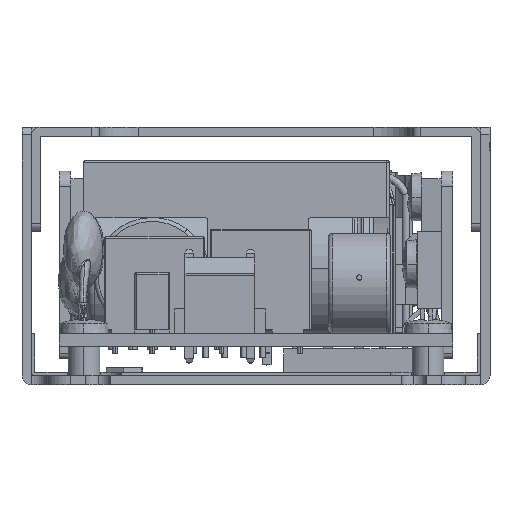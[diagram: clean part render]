
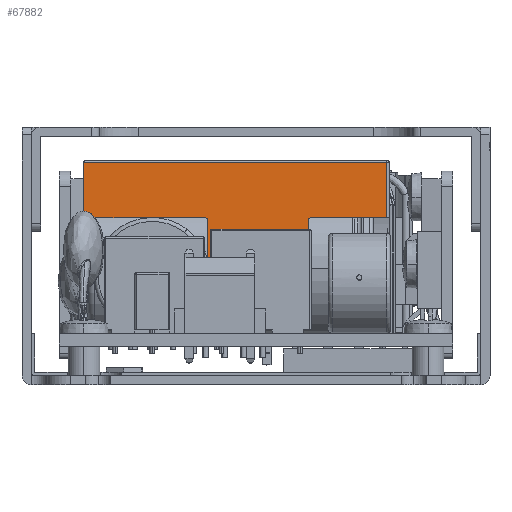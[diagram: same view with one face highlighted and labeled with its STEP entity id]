
A CAD part, left-side view. The second image highlights one B-rep face of the part: STEP entity #67882.
In plain terms, the highlighted planar face has unit normal (-1, 0, 0).
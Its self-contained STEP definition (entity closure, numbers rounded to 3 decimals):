
#79 = VECTOR ( 'NONE', #95932, 1000. ) ;
#2710 = LINE ( 'NONE', #29431, #79 ) ;
#3617 = DIRECTION ( 'NONE',  ( 0., -1., 0. ) ) ;
#5769 = EDGE_CURVE ( 'NONE', #94928, #77564, #69209, .T. ) ;
#5865 = CARTESIAN_POINT ( 'NONE',  ( 126.168, -18.539, 24. ) ) ;
#7646 = AXIS2_PLACEMENT_3D ( 'NONE', #89366, #39298, #97727 ) ;
#9795 = DIRECTION ( 'NONE',  ( 0., 0., -1. ) ) ;
#11513 = ORIENTED_EDGE ( 'NONE', *, *, #39208, .T. ) ;
#11703 = CARTESIAN_POINT ( 'NONE',  ( 126.168, 20.211, 16.55 ) ) ;
#11969 = DIRECTION ( 'NONE',  ( -1., 0., 0. ) ) ;
#12742 = CARTESIAN_POINT ( 'NONE',  ( 126.168, -8.389, 16.55 ) ) ;
#12859 = DIRECTION ( 'NONE',  ( 1., 0., 0. ) ) ;
#14931 = FACE_OUTER_BOUND ( 'NONE', #33617, .T. ) ;
#15255 = VERTEX_POINT ( 'NONE', #79689 ) ;
#16035 = VERTEX_POINT ( 'NONE', #102096 ) ;
#18652 = ORIENTED_EDGE ( 'NONE', *, *, #84026, .T. ) ;
#18893 = CIRCLE ( 'NONE', #78969, 0.3 ) ;
#23476 = EDGE_CURVE ( 'NONE', #38725, #44497, #51337, .T. ) ;
#24487 = CARTESIAN_POINT ( 'NONE',  ( 126.168, -18.539, 16.55 ) ) ;
#24772 = VECTOR ( 'NONE', #99461, 1000. ) ;
#25190 = DIRECTION ( 'NONE',  ( 0., -1., 0. ) ) ;
#26458 = VECTOR ( 'NONE', #55917, 1000. ) ;
#26508 = VECTOR ( 'NONE', #33922, 1000. ) ;
#27938 = VERTEX_POINT ( 'NONE', #89076 ) ;
#28317 = VERTEX_POINT ( 'NONE', #52095 ) ;
#28596 = EDGE_CURVE ( 'NONE', #77564, #31258, #18893, .T. ) ;
#29431 = CARTESIAN_POINT ( 'NONE',  ( 126.168, 20.661, 24. ) ) ;
#29504 = CARTESIAN_POINT ( 'NONE',  ( 126.168, 20.211, 3.25 ) ) ;
#31258 = VERTEX_POINT ( 'NONE', #34369 ) ;
#31694 = VECTOR ( 'NONE', #105853, 1000. ) ;
#32009 = CARTESIAN_POINT ( 'NONE',  ( 126.168, 4.611, 3.25 ) ) ;
#32324 = DIRECTION ( 'NONE',  ( -1., 0., 0. ) ) ;
#33617 = EDGE_LOOP ( 'NONE', ( #56047, #73502, #18652, #72513, #104356, #11513, #40410, #46809, #102650, #79848, #80716, #51580, #84294, #95182 ) ) ;
#33922 = DIRECTION ( 'NONE',  ( 0., 1., 0. ) ) ;
#34369 = CARTESIAN_POINT ( 'NONE',  ( 126.168, 4.611, 16.25 ) ) ;
#38400 = CARTESIAN_POINT ( 'NONE',  ( 126.168, -8.689, 16.25 ) ) ;
#38646 = CARTESIAN_POINT ( 'NONE',  ( 126.168, 20.211, 2.95 ) ) ;
#38725 = VERTEX_POINT ( 'NONE', #24487 ) ;
#39084 = EDGE_CURVE ( 'NONE', #57879, #27938, #103085, .T. ) ;
#39208 = EDGE_CURVE ( 'NONE', #104028, #94928, #96507, .T. ) ;
#39298 = DIRECTION ( 'NONE',  ( -1., 0., 0. ) ) ;
#40320 = VECTOR ( 'NONE', #88732, 1000. ) ;
#40410 = ORIENTED_EDGE ( 'NONE', *, *, #5769, .T. ) ;
#40446 = EDGE_CURVE ( 'NONE', #27938, #28317, #98350, .T. ) ;
#40688 = CARTESIAN_POINT ( 'NONE',  ( 126.168, 20.211, 16.55 ) ) ;
#40920 = EDGE_CURVE ( 'NONE', #90101, #95408, #2710, .T. ) ;
#42727 = AXIS2_PLACEMENT_3D ( 'NONE', #82445, #32324, #90781 ) ;
#43679 = DIRECTION ( 'NONE',  ( 0., 0., 1. ) ) ;
#44497 = VERTEX_POINT ( 'NONE', #45122 ) ;
#45122 = CARTESIAN_POINT ( 'NONE',  ( 126.168, -18.539, 23.7 ) ) ;
#46809 = ORIENTED_EDGE ( 'NONE', *, *, #28596, .T. ) ;
#46847 = DIRECTION ( 'NONE',  ( 0., -1., 0. ) ) ;
#47774 = VECTOR ( 'NONE', #43679, 1000. ) ;
#49987 = VECTOR ( 'NONE', #9795, 1000. ) ;
#51337 = LINE ( 'NONE', #5865, #26458 ) ;
#51580 = ORIENTED_EDGE ( 'NONE', *, *, #82794, .T. ) ;
#52095 = CARTESIAN_POINT ( 'NONE',  ( 126.168, -8.089, 2.95 ) ) ;
#52451 = LINE ( 'NONE', #12742, #96847 ) ;
#55917 = DIRECTION ( 'NONE',  ( 0., 0., 1. ) ) ;
#56047 = ORIENTED_EDGE ( 'NONE', *, *, #64921, .T. ) ;
#56391 = EDGE_CURVE ( 'NONE', #103853, #15255, #69931, .T. ) ;
#57428 = EDGE_CURVE ( 'NONE', #31258, #57879, #72177, .T. ) ;
#57862 = AXIS2_PLACEMENT_3D ( 'NONE', #62037, #11969, #70432 ) ;
#57879 = VERTEX_POINT ( 'NONE', #32009 ) ;
#58739 = CARTESIAN_POINT ( 'NONE',  ( 126.168, -18.839, 23.7 ) ) ;
#58764 = CARTESIAN_POINT ( 'NONE',  ( 126.168, -8.389, 3.25 ) ) ;
#60831 = CIRCLE ( 'NONE', #106497, 0.3 ) ;
#62037 = CARTESIAN_POINT ( 'NONE',  ( 126.168, 4.311, 3.25 ) ) ;
#62243 = VECTOR ( 'NONE', #25190, 1000. ) ;
#62989 = CARTESIAN_POINT ( 'NONE',  ( 126.168, 4.911, 16.25 ) ) ;
#64921 = EDGE_CURVE ( 'NONE', #16035, #38725, #52451, .T. ) ;
#67882 = ADVANCED_FACE ( 'NONE', ( #14931 ), #73631, .T. ) ;
#68480 = CARTESIAN_POINT ( 'NONE',  ( 126.168, -8.389, 2.95 ) ) ;
#69209 = LINE ( 'NONE', #40688, #24772 ) ;
#69931 = LINE ( 'NONE', #68480, #47774 ) ;
#70432 = DIRECTION ( 'NONE',  ( 0., -1., 0. ) ) ;
#70917 = LINE ( 'NONE', #58739, #26508 ) ;
#70987 = EDGE_CURVE ( 'NONE', #95408, #104028, #84540, .T. ) ;
#71361 = DIRECTION ( 'NONE',  ( 0., -1., 0. ) ) ;
#72177 = LINE ( 'NONE', #84418, #49987 ) ;
#72513 = ORIENTED_EDGE ( 'NONE', *, *, #40920, .T. ) ;
#73502 = ORIENTED_EDGE ( 'NONE', *, *, #23476, .T. ) ;
#73631 = PLANE ( 'NONE',  #42727 ) ;
#77564 = VERTEX_POINT ( 'NONE', #95104 ) ;
#78969 = AXIS2_PLACEMENT_3D ( 'NONE', #62989, #12859, #71361 ) ;
#79416 = EDGE_CURVE ( 'NONE', #15255, #16035, #60831, .T. ) ;
#79689 = CARTESIAN_POINT ( 'NONE',  ( 126.168, -8.389, 16.25 ) ) ;
#79848 = ORIENTED_EDGE ( 'NONE', *, *, #39084, .T. ) ;
#80716 = ORIENTED_EDGE ( 'NONE', *, *, #40446, .T. ) ;
#82445 = CARTESIAN_POINT ( 'NONE',  ( 126.168, -18.839, 13.55 ) ) ;
#82794 = EDGE_CURVE ( 'NONE', #28317, #103853, #84619, .T. ) ;
#84026 = EDGE_CURVE ( 'NONE', #44497, #90101, #70917, .T. ) ;
#84294 = ORIENTED_EDGE ( 'NONE', *, *, #56391, .T. ) ;
#84418 = CARTESIAN_POINT ( 'NONE',  ( 126.168, 4.611, 16.55 ) ) ;
#84540 = LINE ( 'NONE', #100051, #62243 ) ;
#84619 = CIRCLE ( 'NONE', #7646, 0.3 ) ;
#88732 = DIRECTION ( 'NONE',  ( 0., 0., 1. ) ) ;
#89076 = CARTESIAN_POINT ( 'NONE',  ( 126.168, 4.311, 2.95 ) ) ;
#89366 = CARTESIAN_POINT ( 'NONE',  ( 126.168, -8.089, 3.25 ) ) ;
#90101 = VERTEX_POINT ( 'NONE', #100941 ) ;
#90781 = DIRECTION ( 'NONE',  ( 0., -1., 0. ) ) ;
#94928 = VERTEX_POINT ( 'NONE', #11703 ) ;
#95104 = CARTESIAN_POINT ( 'NONE',  ( 126.168, 4.911, 16.55 ) ) ;
#95182 = ORIENTED_EDGE ( 'NONE', *, *, #79416, .T. ) ;
#95408 = VERTEX_POINT ( 'NONE', #107676 ) ;
#95932 = DIRECTION ( 'NONE',  ( 0., 0., -1. ) ) ;
#96507 = LINE ( 'NONE', #38646, #40320 ) ;
#96832 = DIRECTION ( 'NONE',  ( 1., 0., 0. ) ) ;
#96847 = VECTOR ( 'NONE', #3617, 1000. ) ;
#97469 = CARTESIAN_POINT ( 'NONE',  ( 126.168, 4.611, 2.95 ) ) ;
#97727 = DIRECTION ( 'NONE',  ( 0., -1., 0. ) ) ;
#98350 = LINE ( 'NONE', #97469, #31694 ) ;
#99461 = DIRECTION ( 'NONE',  ( 0., -1., 0. ) ) ;
#100051 = CARTESIAN_POINT ( 'NONE',  ( 126.168, 20.211, 3.25 ) ) ;
#100941 = CARTESIAN_POINT ( 'NONE',  ( 126.168, 20.661, 23.7 ) ) ;
#102096 = CARTESIAN_POINT ( 'NONE',  ( 126.168, -8.689, 16.55 ) ) ;
#102650 = ORIENTED_EDGE ( 'NONE', *, *, #57428, .T. ) ;
#103085 = CIRCLE ( 'NONE', #57862, 0.3 ) ;
#103853 = VERTEX_POINT ( 'NONE', #58764 ) ;
#104028 = VERTEX_POINT ( 'NONE', #29504 ) ;
#104356 = ORIENTED_EDGE ( 'NONE', *, *, #70987, .T. ) ;
#105853 = DIRECTION ( 'NONE',  ( 0., -1., 0. ) ) ;
#106497 = AXIS2_PLACEMENT_3D ( 'NONE', #38400, #96832, #46847 ) ;
#107676 = CARTESIAN_POINT ( 'NONE',  ( 126.168, 20.661, 3.25 ) ) ;
